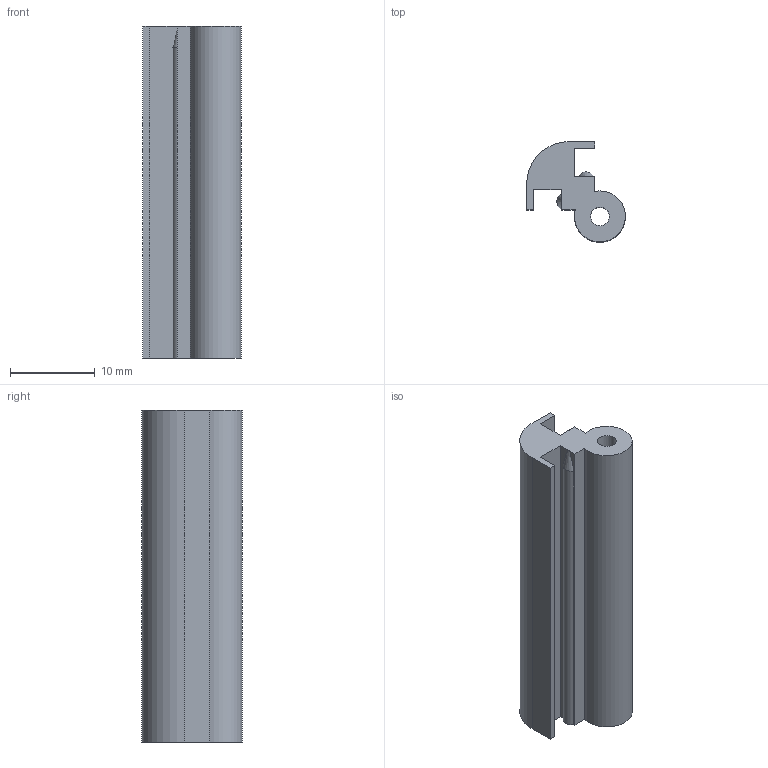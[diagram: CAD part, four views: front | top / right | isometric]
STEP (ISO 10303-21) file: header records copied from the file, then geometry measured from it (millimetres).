
FILE_DESCRIPTION(('Open CASCADE Model'),'2;1');
FILE_NAME('Open CASCADE Shape Model','2026-08-29T07:31:45',('Author'),( 'Open CASCADE'),'Open CASCADE STEP processor 7.9','build123d', 'Unknown');
FILE_SCHEMA(('AUTOMOTIVE_DESIGN { 1 0 10303 214 1 1 1 1 }'));
Length unit declared in the file: millimetre
Products named in the file (1): COMPOUND
Bounding box: 11.62 x 11.79 x 39.08 mm (x, y, z)
Volume: 2550.4 mm3; surface area: 2408.1 mm2
Topology: 1 solids, 1 shells, 23 faces, 63 edges, 42 vertices
Faces by surface type: plane 16, cylinder 5, cone 2
Full cylindrical faces by diameter (mm): 2.2 x1
Entity records: 1567 total; most frequent: CARTESIAN_POINT 363, DIRECTION 202, ORIENTED_EDGE 126, PCURVE 126, DEFINITIONAL_REPRESENTATION 126, LINE 121, VECTOR 121, EDGE_CURVE 63
